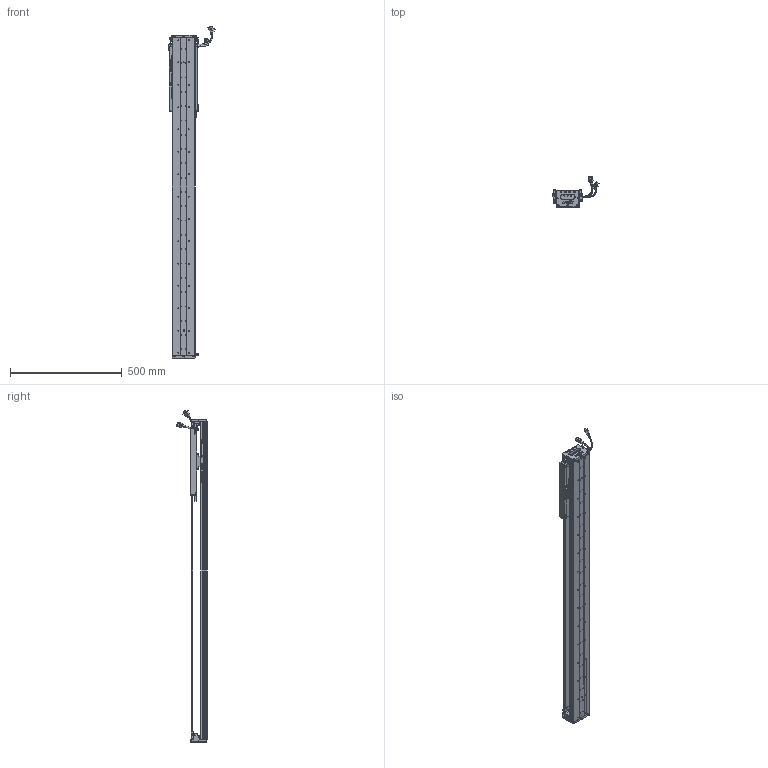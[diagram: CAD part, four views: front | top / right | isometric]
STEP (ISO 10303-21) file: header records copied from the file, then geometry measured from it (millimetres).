
FILE_DESCRIPTION (( 'STEP AP203' ), '1' );
FILE_NAME ('Z4-RY100D-1-L500-B-K.SLDASM_1050.step', '2021-05-17T03:02:27', ( '盈信电脑' ), ( '东莞市道滘镇水果街19号' ), 'SwSTEP 2.0', 'SolidWorks 2016', '' );
FILE_SCHEMA (( 'CONFIG_CONTROL_DESIGN' ));
Length unit declared in the file: millimetre
Products named in the file (36): SCREW-M1.6-1; Z4-RY100D-1-L500-B-K.SLDASM_1050; 覜茼ん672; SCREW-M1.6-2; 100-Z-臏賑輸盄裔(21遴); Z-RY100D詩湍奻揤裔; HARNESS-Part-1; Z4-RY100铝滑块（21款）; COVER; SCREW-M1.6-3; SHIELDPLATE; LABEL-Part-1; Z-RY100D詩湍狟揤裔; 140雄赽晤鎢ん堤盄; COVER-Part-1; HARNESS; 080黍杅芛假蚾釱21遴; SCALE-Part-1; Z4-RY100D-500-倰第菁釱_1050; PBU_SHEET; SEAL; LABEL; SEAL-Part-1; 140蚥薯蝶輸; Z-RY100D覜茼んえ; SCALE-Part-2; PSLH080_PSLF2; SCREW-M1.7; Z-100詩湍傷裔啣; HOLDER0; HARNESS-Part-2; SCALE; Z4-RY100-L500詩湍90mm遵_1050; SCREW-M1.6; 榋妏寠巭燃_暯_M2_2; SCREW-M1.7-1
Assembly tree (43 placements, depth 4):
  Z4-RY100D-1-L500-B-K.SLDASM_1050
    Z4-RY100D-500-倰第菁釱_1050
    Z4-RY100铝滑块（21款）
    PSLH080_PSLF2
      SCALE
        SCALE-Part-1
        SCALE-Part-2
      HARNESS
        HARNESS-Part-1
        HARNESS-Part-2
      LABEL
        LABEL-Part-1
      COVER
        COVER-Part-1
      SEAL
        SEAL-Part-1
      榋妏寠巭燃_暯_M2_2
      SHIELDPLATE
      SCREW-M1.7
      SCREW-M1.7-1
      PBU_SHEET
      SCREW-M1.6
      SCREW-M1.6-1
      SCREW-M1.6-2
      SCREW-M1.6-3
      HOLDER0
    080黍杅芛假蚾釱21遴
    Z-100詩湍傷裔啣  x2
    140蚥薯蝶輸  x2
    覜茼ん672  x3
    Z-RY100D覜茼んえ  x3
    100-Z-臏賑輸盄裔(21遴)
    140雄赽晤鎢ん堤盄
    Z4-RY100-L500詩湍90mm遵_1050
    Z-RY100D詩湍狟揤裔  x2
    Z-RY100D詩湍奻揤裔  x2
Bounding box: 205.84 x 136.11 x 1485.43 mm (x, y, z)
Volume: 3101080.3 mm3; surface area: 1180557.7 mm2
Topology: 38 solids, 38 shells, 2702 faces, 7165 edges, 4544 vertices
Faces by surface type: cylinder 1214, plane 1140, cone 226, torus 69, bspline 53
Entity records: 74749 total; most frequent: CARTESIAN_POINT 15718, DIRECTION 11905, ORIENTED_EDGE 11210, EDGE_CURVE 5605, AXIS2_PLACEMENT_3D 4407, VERTEX_POINT 3612, VECTOR 3091, LINE 3091
